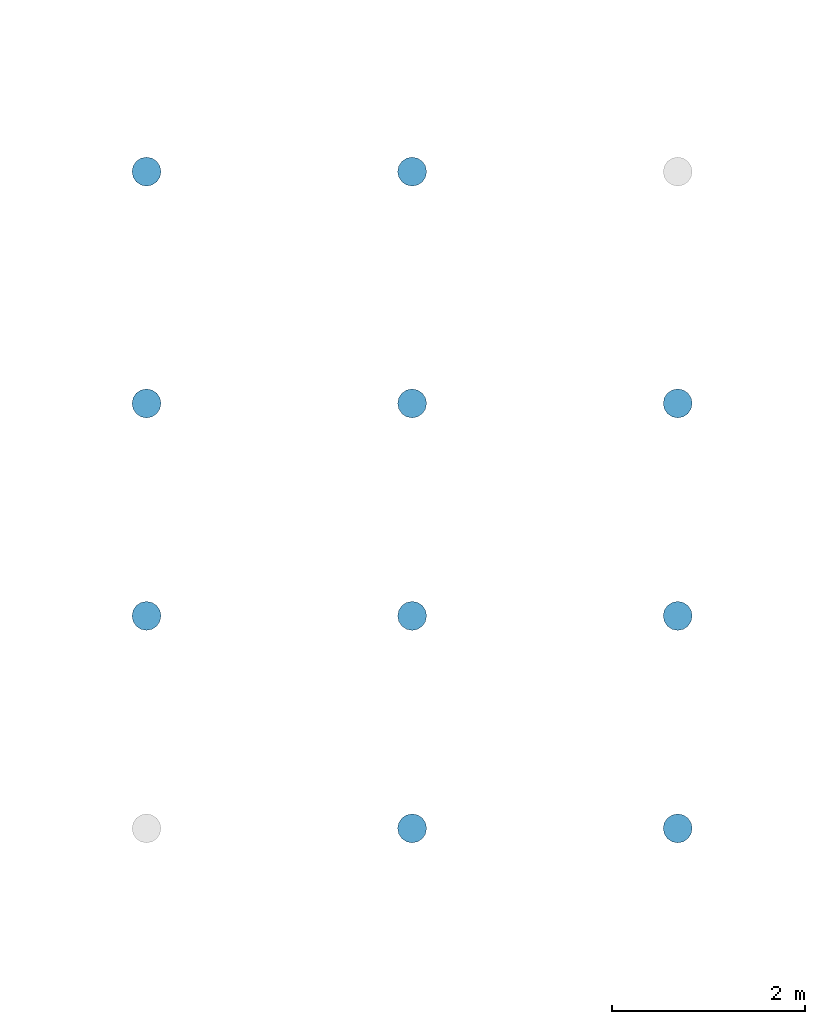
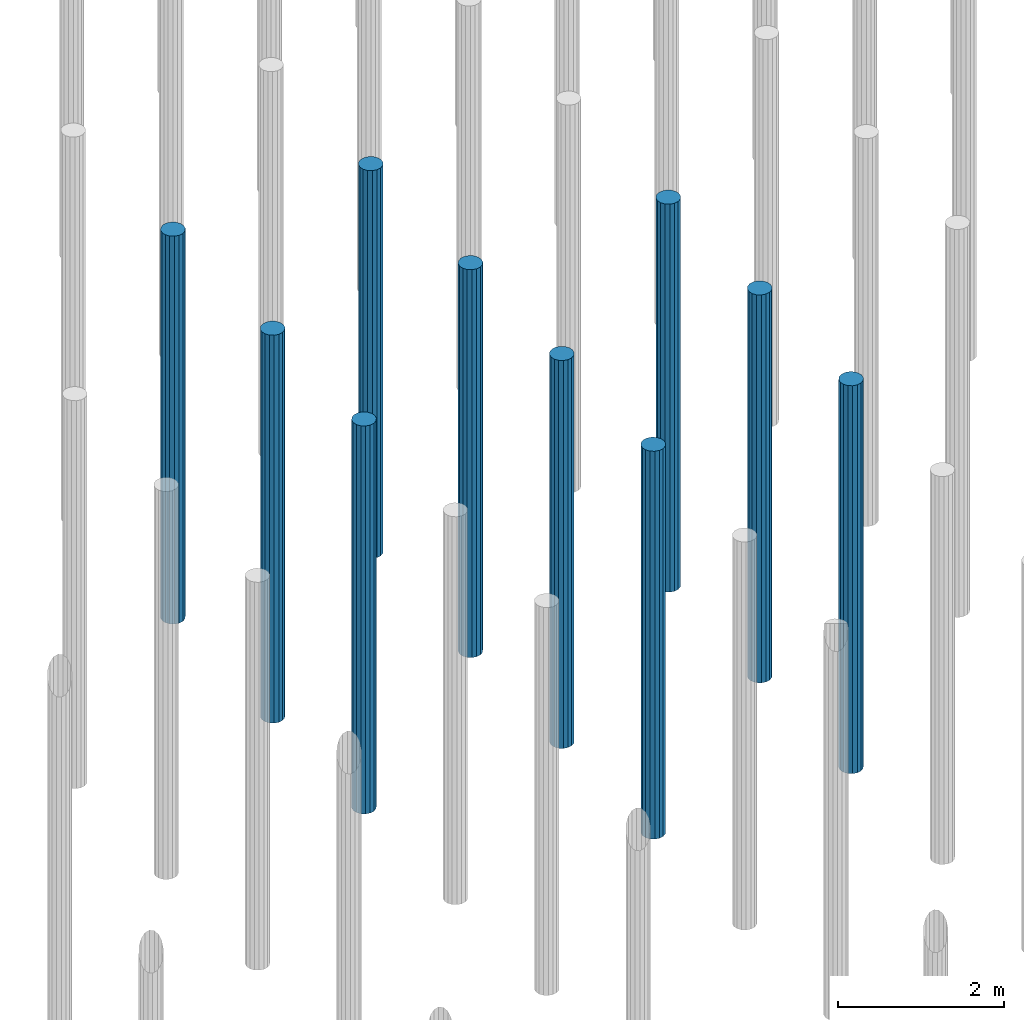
# One storey, part 81 of 102: 10 slabs.
"""IFC2X3 building model written with IfcOpenShell, lengths in millimetres."""

from ifc_helpers import new_model, entity, si_unit, converted_unit, derived_unit, money_unit, direction, frame, origin_with_axes, place, context, subcontext, project, spatial, faceted_brep, material, type_object, element, save


model = new_model("IFC2X3")

# Units and contexts
model_context = context("Model", 3, precision=0.01, world=origin_with_axes(), true_north=direction((0.0, 1.0)))
body_context = subcontext(model_context, "Body", "Model", "MODEL_VIEW")
ifc_project = project(units=[si_unit("LENGTHUNIT", "METRE", prefix="MILLI"), si_unit("AREAUNIT", "SQUARE_METRE"), si_unit("VOLUMEUNIT", "CUBIC_METRE"), converted_unit("PLANEANGLEUNIT", "DEGREE", entity("IfcPlaneAngleMeasure", 0.0174532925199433), si_unit("PLANEANGLEUNIT", "RADIAN"), dimensions=[0, 0, 0, 0, 0, 0, 0]), money_unit("EUR"), converted_unit("TIMEUNIT", "Year", entity("IfcTimeMeasure", 31557600.0), si_unit("TIMEUNIT", "SECOND"), dimensions=[0, 0, 1, 0, 0, 0, 0]), si_unit("MASSUNIT", "GRAM", prefix="KILO"), si_unit("THERMODYNAMICTEMPERATUREUNIT", "DEGREE_CELSIUS"), si_unit("LUMINOUSINTENSITYUNIT", "LUMEN"), si_unit("ENERGYUNIT", "JOULE", prefix="MEGA"), derived_unit("THERMALCONDUCTANCEUNIT", [(si_unit("POWERUNIT", "WATT"), 1), (si_unit("LENGTHUNIT", "METRE"), -1), (si_unit("THERMODYNAMICTEMPERATUREUNIT", "KELVIN"), -1)]), derived_unit("SPECIFICHEATCAPACITYUNIT", [(si_unit("ENERGYUNIT", "JOULE"), 1), (si_unit("MASSUNIT", "GRAM", prefix="KILO"), -1), (si_unit("THERMODYNAMICTEMPERATUREUNIT", "KELVIN"), -1)]), derived_unit("MASSDENSITYUNIT", [(si_unit("MASSUNIT", "GRAM", prefix="KILO"), 1), (si_unit("VOLUMEUNIT", "CUBIC_METRE"), -1)])], contexts=[model_context])

# Site, building, storey
site_placement = place(None, origin_with_axes())
site = spatial("IfcSite", under=ifc_project, at=site_placement, Name="Site", CompositionType="ELEMENT")
building_placement = place(site_placement, origin_with_axes())
building = spatial("IfcBuilding", under=site, at=building_placement, Name="Naam gebouw", CompositionType="ELEMENT")
storey_placement = place(building_placement, frame((0.0, 0.0, -1020.0), z_axis=(0.0, 0.0, 1.0), x_axis=(1.0, 0.0, 0.0)))
storey = spatial("IfcBuildingStorey", under=building, at=storey_placement, Name="-2 fundering", CompositionType="ELEMENT", Elevation=-1020.0)

# Slabs
ifc_material = material(Name="WSP_beton - ihwg beton")
slab_type_1 = type_object("IfcSlabType", Name="Slab 637", PredefinedType="NOTDEFINED")
slab_1_placement = place(storey_placement, frame((25299.99999999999, 30000.0, 979.9999952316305), z_axis=(0.0, 0.0, 1.0), x_axis=(1.0, 0.0, 0.0)))
element("IfcSlab", 1, at=slab_1_placement, inside=storey, type_object=slab_type_1, material=ifc_material, Name="17_WSP_FD_beton - fundatiepaal v21-2:ø300 (schroef)", PredefinedType="NOTDEFINED", context=body_context, shape_type="Brep", body=[
    faceted_brep([(75876.0, 57201.0, -5980.0), (75874.0, 57201.0, -5980.0), (75874.0, 57201.0, -5978.000000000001), (75876.0, 57201.0, -5978.000000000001), (75876.0, 57199.00000000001, -5980.0), (75874.0, 57199.00000000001, -5980.0), (75874.0, 57199.00000000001, -5978.000000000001), (75876.0, 57199.00000000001, -5978.000000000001)], [[[0, 1, 2, 3]], [[0, 4, 5, 1]], [[1, 5, 6, 2]], [[3, 2, 6, 7]], [[4, 0, 3, 7]], [[5, 4, 7, 6]]]),
    faceted_brep([(75725.0, 57200.0, -5980.0), (75736.41807012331, 57142.59748514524, -5980.0), (75736.41807012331, 57142.59748514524, -280.0000000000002), (75725.0, 57200.0, -280.0000000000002), (75736.41807012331, 57257.40251485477, -5980.0), (75768.93398282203, 57306.06601717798, -5980.0), (75817.59748514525, 57338.58192987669, -5980.0), (75875.0, 57350.0, -5980.0), (75932.40251485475, 57338.58192987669, -5980.0), (75981.06601717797, 57306.06601717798, -5980.0), (76013.58192987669, 57257.40251485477, -5980.0), (76025.0, 57200.0, -5980.0), (76013.58192987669, 57142.59748514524, -5980.0), (75981.06601717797, 57093.93398282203, -5980.0), (75932.40251485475, 57061.41807012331, -5980.0), (75875.0, 57050.00000000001, -5980.0), (75817.59748514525, 57061.41807012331, -5980.0), (75768.93398282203, 57093.93398282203, -5980.0), (75768.93398282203, 57093.93398282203, -280.0000000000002), (75817.59748514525, 57061.41807012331, -280.0000000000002), (75875.0, 57050.00000000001, -280.0000000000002), (75932.40251485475, 57061.41807012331, -280.0000000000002), (75981.06601717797, 57093.93398282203, -280.0000000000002), (76013.58192987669, 57142.59748514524, -280.0000000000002), (76025.0, 57200.0, -280.0000000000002), (76013.58192987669, 57257.40251485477, -280.0000000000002), (75981.06601717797, 57306.06601717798, -280.0000000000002), (75932.40251485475, 57338.58192987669, -280.0000000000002), (75875.0, 57350.0, -280.0000000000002), (75817.59748514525, 57338.58192987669, -280.0000000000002), (75768.93398282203, 57306.06601717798, -280.0000000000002), (75736.41807012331, 57257.40251485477, -280.0000000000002)], [[[0, 1, 2, 3]], [[0, 4, 5, 6, 7, 8, 9, 10, 11, 12, 13, 14, 15, 16, 17, 1]], [[1, 17, 18, 2]], [[3, 2, 18, 19, 20, 21, 22, 23, 24, 25, 26, 27, 28, 29, 30, 31]], [[4, 0, 3, 31]], [[5, 4, 31, 30]], [[6, 5, 30, 29]], [[7, 6, 29, 28]], [[8, 7, 28, 27]], [[9, 8, 27, 26]], [[10, 9, 26, 25]], [[11, 10, 25, 24]], [[12, 11, 24, 23]], [[13, 12, 23, 22]], [[14, 13, 22, 21]], [[15, 14, 21, 20]], [[16, 15, 20, 19]], [[17, 16, 19, 18]]]),
])
slab_type_2 = type_object("IfcSlabType", Name="Slab 638", PredefinedType="NOTDEFINED")
slab_2_placement = place(storey_placement, frame((25299.99999999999, 30000.0, 979.9999952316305), z_axis=(0.0, 0.0, 1.0), x_axis=(1.0, 0.0, 0.0)))
element("IfcSlab", 2, at=slab_2_placement, inside=storey, type_object=slab_type_2, material=ifc_material, Name="17_WSP_FD_beton - fundatiepaal v21-2:ø300 (schroef)", PredefinedType="NOTDEFINED", context=body_context, shape_type="Brep", body=[
    faceted_brep([(78626.0, 57201.0, -5980.0), (78624.0, 57201.0, -5980.0), (78624.0, 57201.0, -5978.000000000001), (78626.0, 57201.0, -5978.000000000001), (78626.0, 57199.00000000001, -5980.0), (78624.0, 57199.00000000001, -5980.0), (78624.0, 57199.00000000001, -5978.000000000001), (78626.0, 57199.00000000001, -5978.000000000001)], [[[0, 1, 2, 3]], [[0, 4, 5, 1]], [[1, 5, 6, 2]], [[3, 2, 6, 7]], [[4, 0, 3, 7]], [[5, 4, 7, 6]]]),
    faceted_brep([(78475.0, 57200.0, -5980.0), (78486.41807012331, 57142.59748514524, -5980.0), (78486.41807012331, 57142.59748514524, -280.0000000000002), (78475.0, 57200.0, -280.0000000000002), (78486.41807012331, 57257.40251485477, -5980.0), (78518.93398282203, 57306.06601717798, -5980.0), (78567.59748514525, 57338.58192987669, -5980.0), (78625.0, 57350.0, -5980.0), (78682.40251485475, 57338.58192987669, -5980.0), (78731.06601717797, 57306.06601717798, -5980.0), (78763.58192987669, 57257.40251485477, -5980.0), (78775.0, 57200.0, -5980.0), (78763.58192987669, 57142.59748514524, -5980.0), (78731.06601717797, 57093.93398282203, -5980.0), (78682.40251485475, 57061.41807012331, -5980.0), (78625.0, 57050.00000000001, -5980.0), (78567.59748514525, 57061.41807012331, -5980.0), (78518.93398282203, 57093.93398282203, -5980.0), (78518.93398282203, 57093.93398282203, -280.0000000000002), (78567.59748514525, 57061.41807012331, -280.0000000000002), (78625.0, 57050.00000000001, -280.0000000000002), (78682.40251485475, 57061.41807012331, -280.0000000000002), (78731.06601717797, 57093.93398282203, -280.0000000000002), (78763.58192987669, 57142.59748514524, -280.0000000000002), (78775.0, 57200.0, -280.0000000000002), (78763.58192987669, 57257.40251485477, -280.0000000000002), (78731.06601717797, 57306.06601717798, -280.0000000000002), (78682.40251485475, 57338.58192987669, -280.0000000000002), (78625.0, 57350.0, -280.0000000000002), (78567.59748514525, 57338.58192987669, -280.0000000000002), (78518.93398282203, 57306.06601717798, -280.0000000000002), (78486.41807012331, 57257.40251485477, -280.0000000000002)], [[[0, 1, 2, 3]], [[0, 4, 5, 6, 7, 8, 9, 10, 11, 12, 13, 14, 15, 16, 17, 1]], [[1, 17, 18, 2]], [[3, 2, 18, 19, 20, 21, 22, 23, 24, 25, 26, 27, 28, 29, 30, 31]], [[4, 0, 3, 31]], [[5, 4, 31, 30]], [[6, 5, 30, 29]], [[7, 6, 29, 28]], [[8, 7, 28, 27]], [[9, 8, 27, 26]], [[10, 9, 26, 25]], [[11, 10, 25, 24]], [[12, 11, 24, 23]], [[13, 12, 23, 22]], [[14, 13, 22, 21]], [[15, 14, 21, 20]], [[16, 15, 20, 19]], [[17, 16, 19, 18]]]),
])
slab_type_3 = type_object("IfcSlabType", Name="Slab 654", PredefinedType="NOTDEFINED")
slab_3_placement = place(storey_placement, frame((25299.99999999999, 30000.0, 979.9999952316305), z_axis=(0.0, 0.0, 1.0), x_axis=(1.0, 0.0, 0.0)))
element("IfcSlab", 3, at=slab_3_placement, inside=storey, type_object=slab_type_3, material=ifc_material, Name="17_WSP_FD_beton - fundatiepaal v21-2:ø300 (schroef)", PredefinedType="NOTDEFINED", context=body_context, shape_type="Brep", body=[
    faceted_brep([(73126.0, 59400.99999999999, -5980.0), (73124.0, 59400.99999999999, -5980.0), (73124.0, 59400.99999999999, -5978.000000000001), (73126.0, 59400.99999999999, -5978.000000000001), (73126.0, 59399.0, -5980.0), (73124.0, 59399.0, -5980.0), (73124.0, 59399.0, -5978.000000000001), (73126.0, 59399.0, -5978.000000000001)], [[[0, 1, 2, 3]], [[0, 4, 5, 1]], [[1, 5, 6, 2]], [[3, 2, 6, 7]], [[4, 0, 3, 7]], [[5, 4, 7, 6]]]),
    faceted_brep([(72975.0, 59400.0, -5980.0), (72986.41807012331, 59342.59748514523, -5980.0), (72986.41807012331, 59342.59748514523, -280.0000000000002), (72975.0, 59400.0, -280.0000000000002), (72986.41807012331, 59457.40251485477, -5980.0), (73018.93398282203, 59506.06601717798, -5980.0), (73067.59748514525, 59538.58192987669, -5980.0), (73125.0, 59550.0, -5980.0), (73182.40251485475, 59538.58192987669, -5980.0), (73231.06601717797, 59506.06601717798, -5980.0), (73263.58192987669, 59457.40251485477, -5980.0), (73275.0, 59400.0, -5980.0), (73263.58192987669, 59342.59748514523, -5980.0), (73231.06601717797, 59293.93398282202, -5980.0), (73182.40251485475, 59261.41807012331, -5980.0), (73125.0, 59250.0, -5980.0), (73067.59748514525, 59261.41807012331, -5980.0), (73018.93398282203, 59293.93398282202, -5980.0), (73018.93398282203, 59293.93398282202, -280.0000000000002), (73067.59748514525, 59261.41807012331, -280.0000000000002), (73125.0, 59250.0, -280.0000000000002), (73182.40251485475, 59261.41807012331, -280.0000000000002), (73231.06601717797, 59293.93398282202, -280.0000000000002), (73263.58192987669, 59342.59748514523, -280.0000000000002), (73275.0, 59400.0, -280.0000000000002), (73263.58192987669, 59457.40251485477, -280.0000000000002), (73231.06601717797, 59506.06601717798, -280.0000000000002), (73182.40251485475, 59538.58192987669, -280.0000000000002), (73125.0, 59550.0, -280.0000000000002), (73067.59748514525, 59538.58192987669, -280.0000000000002), (73018.93398282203, 59506.06601717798, -280.0000000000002), (72986.41807012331, 59457.40251485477, -280.0000000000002)], [[[0, 1, 2, 3]], [[0, 4, 5, 6, 7, 8, 9, 10, 11, 12, 13, 14, 15, 16, 17, 1]], [[1, 17, 18, 2]], [[3, 2, 18, 19, 20, 21, 22, 23, 24, 25, 26, 27, 28, 29, 30, 31]], [[4, 0, 3, 31]], [[5, 4, 31, 30]], [[6, 5, 30, 29]], [[7, 6, 29, 28]], [[8, 7, 28, 27]], [[9, 8, 27, 26]], [[10, 9, 26, 25]], [[11, 10, 25, 24]], [[12, 11, 24, 23]], [[13, 12, 23, 22]], [[14, 13, 22, 21]], [[15, 14, 21, 20]], [[16, 15, 20, 19]], [[17, 16, 19, 18]]]),
])
slab_type_4 = type_object("IfcSlabType", Name="Slab 655", PredefinedType="NOTDEFINED")
slab_4_placement = place(storey_placement, frame((25299.99999999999, 30000.0, 979.9999952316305), z_axis=(0.0, 0.0, 1.0), x_axis=(1.0, 0.0, 0.0)))
element("IfcSlab", 4, at=slab_4_placement, inside=storey, type_object=slab_type_4, material=ifc_material, Name="17_WSP_FD_beton - fundatiepaal v21-2:ø300 (schroef)", PredefinedType="NOTDEFINED", context=body_context, shape_type="Brep", body=[
    faceted_brep([(75876.0, 59400.99999999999, -5980.0), (75874.0, 59400.99999999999, -5980.0), (75874.0, 59400.99999999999, -5978.000000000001), (75876.0, 59400.99999999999, -5978.000000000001), (75876.0, 59399.0, -5980.0), (75874.0, 59399.0, -5980.0), (75874.0, 59399.0, -5978.000000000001), (75876.0, 59399.0, -5978.000000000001)], [[[0, 1, 2, 3]], [[0, 4, 5, 1]], [[1, 5, 6, 2]], [[3, 2, 6, 7]], [[4, 0, 3, 7]], [[5, 4, 7, 6]]]),
    faceted_brep([(75725.0, 59400.0, -5980.0), (75736.41807012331, 59342.59748514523, -5980.0), (75736.41807012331, 59342.59748514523, -280.0000000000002), (75725.0, 59400.0, -280.0000000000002), (75736.41807012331, 59457.40251485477, -5980.0), (75768.93398282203, 59506.06601717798, -5980.0), (75817.59748514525, 59538.58192987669, -5980.0), (75875.0, 59550.0, -5980.0), (75932.40251485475, 59538.58192987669, -5980.0), (75981.06601717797, 59506.06601717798, -5980.0), (76013.58192987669, 59457.40251485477, -5980.0), (76025.0, 59400.0, -5980.0), (76013.58192987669, 59342.59748514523, -5980.0), (75981.06601717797, 59293.93398282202, -5980.0), (75932.40251485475, 59261.41807012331, -5980.0), (75875.0, 59250.0, -5980.0), (75817.59748514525, 59261.41807012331, -5980.0), (75768.93398282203, 59293.93398282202, -5980.0), (75768.93398282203, 59293.93398282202, -280.0000000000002), (75817.59748514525, 59261.41807012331, -280.0000000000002), (75875.0, 59250.0, -280.0000000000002), (75932.40251485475, 59261.41807012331, -280.0000000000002), (75981.06601717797, 59293.93398282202, -280.0000000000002), (76013.58192987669, 59342.59748514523, -280.0000000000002), (76025.0, 59400.0, -280.0000000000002), (76013.58192987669, 59457.40251485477, -280.0000000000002), (75981.06601717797, 59506.06601717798, -280.0000000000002), (75932.40251485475, 59538.58192987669, -280.0000000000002), (75875.0, 59550.0, -280.0000000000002), (75817.59748514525, 59538.58192987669, -280.0000000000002), (75768.93398282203, 59506.06601717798, -280.0000000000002), (75736.41807012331, 59457.40251485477, -280.0000000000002)], [[[0, 1, 2, 3]], [[0, 4, 5, 6, 7, 8, 9, 10, 11, 12, 13, 14, 15, 16, 17, 1]], [[1, 17, 18, 2]], [[3, 2, 18, 19, 20, 21, 22, 23, 24, 25, 26, 27, 28, 29, 30, 31]], [[4, 0, 3, 31]], [[5, 4, 31, 30]], [[6, 5, 30, 29]], [[7, 6, 29, 28]], [[8, 7, 28, 27]], [[9, 8, 27, 26]], [[10, 9, 26, 25]], [[11, 10, 25, 24]], [[12, 11, 24, 23]], [[13, 12, 23, 22]], [[14, 13, 22, 21]], [[15, 14, 21, 20]], [[16, 15, 20, 19]], [[17, 16, 19, 18]]]),
])
slab_type_5 = type_object("IfcSlabType", Name="Slab 656", PredefinedType="NOTDEFINED")
slab_5_placement = place(storey_placement, frame((25299.99999999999, 30000.0, 979.9999952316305), z_axis=(0.0, 0.0, 1.0), x_axis=(1.0, 0.0, 0.0)))
element("IfcSlab", 5, at=slab_5_placement, inside=storey, type_object=slab_type_5, material=ifc_material, Name="17_WSP_FD_beton - fundatiepaal v21-2:ø300 (schroef)", PredefinedType="NOTDEFINED", context=body_context, shape_type="Brep", body=[
    faceted_brep([(78626.0, 59400.99999999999, -5980.0), (78624.0, 59400.99999999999, -5980.0), (78624.0, 59400.99999999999, -5978.000000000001), (78626.0, 59400.99999999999, -5978.000000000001), (78626.0, 59399.0, -5980.0), (78624.0, 59399.0, -5980.0), (78624.0, 59399.0, -5978.000000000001), (78626.0, 59399.0, -5978.000000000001)], [[[0, 1, 2, 3]], [[0, 4, 5, 1]], [[1, 5, 6, 2]], [[3, 2, 6, 7]], [[4, 0, 3, 7]], [[5, 4, 7, 6]]]),
    faceted_brep([(78475.0, 59400.0, -5980.0), (78486.41807012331, 59342.59748514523, -5980.0), (78486.41807012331, 59342.59748514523, -280.0000000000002), (78475.0, 59400.0, -280.0000000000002), (78486.41807012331, 59457.40251485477, -5980.0), (78518.93398282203, 59506.06601717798, -5980.0), (78567.59748514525, 59538.58192987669, -5980.0), (78625.0, 59550.0, -5980.0), (78682.40251485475, 59538.58192987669, -5980.0), (78731.06601717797, 59506.06601717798, -5980.0), (78763.58192987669, 59457.40251485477, -5980.0), (78775.0, 59400.0, -5980.0), (78763.58192987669, 59342.59748514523, -5980.0), (78731.06601717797, 59293.93398282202, -5980.0), (78682.40251485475, 59261.41807012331, -5980.0), (78625.0, 59250.0, -5980.0), (78567.59748514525, 59261.41807012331, -5980.0), (78518.93398282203, 59293.93398282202, -5980.0), (78518.93398282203, 59293.93398282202, -280.0000000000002), (78567.59748514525, 59261.41807012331, -280.0000000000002), (78625.0, 59250.0, -280.0000000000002), (78682.40251485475, 59261.41807012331, -280.0000000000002), (78731.06601717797, 59293.93398282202, -280.0000000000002), (78763.58192987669, 59342.59748514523, -280.0000000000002), (78775.0, 59400.0, -280.0000000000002), (78763.58192987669, 59457.40251485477, -280.0000000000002), (78731.06601717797, 59506.06601717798, -280.0000000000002), (78682.40251485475, 59538.58192987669, -280.0000000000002), (78625.0, 59550.0, -280.0000000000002), (78567.59748514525, 59538.58192987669, -280.0000000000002), (78518.93398282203, 59506.06601717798, -280.0000000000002), (78486.41807012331, 59457.40251485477, -280.0000000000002)], [[[0, 1, 2, 3]], [[0, 4, 5, 6, 7, 8, 9, 10, 11, 12, 13, 14, 15, 16, 17, 1]], [[1, 17, 18, 2]], [[3, 2, 18, 19, 20, 21, 22, 23, 24, 25, 26, 27, 28, 29, 30, 31]], [[4, 0, 3, 31]], [[5, 4, 31, 30]], [[6, 5, 30, 29]], [[7, 6, 29, 28]], [[8, 7, 28, 27]], [[9, 8, 27, 26]], [[10, 9, 26, 25]], [[11, 10, 25, 24]], [[12, 11, 24, 23]], [[13, 12, 23, 22]], [[14, 13, 22, 21]], [[15, 14, 21, 20]], [[16, 15, 20, 19]], [[17, 16, 19, 18]]]),
])
slab_type_6 = type_object("IfcSlabType", Name="Slab 674", PredefinedType="NOTDEFINED")
slab_6_placement = place(storey_placement, frame((25299.99999999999, 30000.0, 979.9999952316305), z_axis=(0.0, 0.0, 1.0), x_axis=(1.0, 0.0, 0.0)))
element("IfcSlab", 6, at=slab_6_placement, inside=storey, type_object=slab_type_6, material=ifc_material, Name="17_WSP_FD_beton - fundatiepaal v21-2:ø300 (schroef)", PredefinedType="NOTDEFINED", context=body_context, shape_type="Brep", body=[
    faceted_brep([(75876.0, 61601.0, -5980.0), (75874.0, 61601.0, -5980.0), (75874.0, 61601.0, -5978.000000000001), (75876.0, 61601.0, -5978.000000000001), (75876.0, 61599.00000000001, -5980.0), (75874.0, 61599.00000000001, -5980.0), (75874.0, 61599.00000000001, -5978.000000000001), (75876.0, 61599.00000000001, -5978.000000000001)], [[[0, 1, 2, 3]], [[0, 4, 5, 1]], [[1, 5, 6, 2]], [[3, 2, 6, 7]], [[4, 0, 3, 7]], [[5, 4, 7, 6]]]),
    faceted_brep([(75725.0, 61600.0, -5980.0), (75736.41807012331, 61542.59748514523, -5980.0), (75736.41807012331, 61542.59748514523, -280.0000000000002), (75725.0, 61600.0, -280.0000000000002), (75736.41807012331, 61657.40251485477, -5980.0), (75768.93398282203, 61706.06601717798, -5980.0), (75817.59748514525, 61738.58192987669, -5980.0), (75875.0, 61750.0, -5980.0), (75932.40251485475, 61738.58192987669, -5980.0), (75981.06601717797, 61706.06601717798, -5980.0), (76013.58192987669, 61657.40251485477, -5980.0), (76025.0, 61600.0, -5980.0), (76013.58192987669, 61542.59748514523, -5980.0), (75981.06601717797, 61493.93398282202, -5980.0), (75932.40251485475, 61461.41807012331, -5980.0), (75875.0, 61450.0, -5980.0), (75817.59748514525, 61461.41807012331, -5980.0), (75768.93398282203, 61493.93398282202, -5980.0), (75768.93398282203, 61493.93398282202, -280.0000000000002), (75817.59748514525, 61461.41807012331, -280.0000000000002), (75875.0, 61450.0, -280.0000000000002), (75932.40251485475, 61461.41807012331, -280.0000000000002), (75981.06601717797, 61493.93398282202, -280.0000000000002), (76013.58192987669, 61542.59748514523, -280.0000000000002), (76025.0, 61600.0, -280.0000000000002), (76013.58192987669, 61657.40251485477, -280.0000000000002), (75981.06601717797, 61706.06601717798, -280.0000000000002), (75932.40251485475, 61738.58192987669, -280.0000000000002), (75875.0, 61750.0, -280.0000000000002), (75817.59748514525, 61738.58192987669, -280.0000000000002), (75768.93398282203, 61706.06601717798, -280.0000000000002), (75736.41807012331, 61657.40251485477, -280.0000000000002)], [[[0, 1, 2, 3]], [[0, 4, 5, 6, 7, 8, 9, 10, 11, 12, 13, 14, 15, 16, 17, 1]], [[1, 17, 18, 2]], [[3, 2, 18, 19, 20, 21, 22, 23, 24, 25, 26, 27, 28, 29, 30, 31]], [[4, 0, 3, 31]], [[5, 4, 31, 30]], [[6, 5, 30, 29]], [[7, 6, 29, 28]], [[8, 7, 28, 27]], [[9, 8, 27, 26]], [[10, 9, 26, 25]], [[11, 10, 25, 24]], [[12, 11, 24, 23]], [[13, 12, 23, 22]], [[14, 13, 22, 21]], [[15, 14, 21, 20]], [[16, 15, 20, 19]], [[17, 16, 19, 18]]]),
])
slab_type_7 = type_object("IfcSlabType", Name="Slab 673", PredefinedType="NOTDEFINED")
slab_7_placement = place(storey_placement, frame((25299.99999999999, 30000.0, 979.9999952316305), z_axis=(0.0, 0.0, 1.0), x_axis=(1.0, 0.0, 0.0)))
element("IfcSlab", 7, at=slab_7_placement, inside=storey, type_object=slab_type_7, material=ifc_material, Name="17_WSP_FD_beton - fundatiepaal v21-2:ø300 (schroef)", PredefinedType="NOTDEFINED", context=body_context, shape_type="Brep", body=[
    faceted_brep([(73126.0, 61601.0, -5980.0), (73124.0, 61601.0, -5980.0), (73124.0, 61601.0, -5978.000000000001), (73126.0, 61601.0, -5978.000000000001), (73126.0, 61599.00000000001, -5980.0), (73124.0, 61599.00000000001, -5980.0), (73124.0, 61599.00000000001, -5978.000000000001), (73126.0, 61599.00000000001, -5978.000000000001)], [[[0, 1, 2, 3]], [[0, 4, 5, 1]], [[1, 5, 6, 2]], [[3, 2, 6, 7]], [[4, 0, 3, 7]], [[5, 4, 7, 6]]]),
    faceted_brep([(72975.0, 61600.0, -5980.0), (72986.41807012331, 61542.59748514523, -5980.0), (72986.41807012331, 61542.59748514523, -280.0000000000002), (72975.0, 61600.0, -280.0000000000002), (72986.41807012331, 61657.40251485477, -5980.0), (73018.93398282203, 61706.06601717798, -5980.0), (73067.59748514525, 61738.58192987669, -5980.0), (73125.0, 61750.0, -5980.0), (73182.40251485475, 61738.58192987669, -5980.0), (73231.06601717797, 61706.06601717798, -5980.0), (73263.58192987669, 61657.40251485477, -5980.0), (73275.0, 61600.0, -5980.0), (73263.58192987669, 61542.59748514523, -5980.0), (73231.06601717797, 61493.93398282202, -5980.0), (73182.40251485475, 61461.41807012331, -5980.0), (73125.0, 61450.0, -5980.0), (73067.59748514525, 61461.41807012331, -5980.0), (73018.93398282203, 61493.93398282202, -5980.0), (73018.93398282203, 61493.93398282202, -280.0000000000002), (73067.59748514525, 61461.41807012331, -280.0000000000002), (73125.0, 61450.0, -280.0000000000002), (73182.40251485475, 61461.41807012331, -280.0000000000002), (73231.06601717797, 61493.93398282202, -280.0000000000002), (73263.58192987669, 61542.59748514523, -280.0000000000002), (73275.0, 61600.0, -280.0000000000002), (73263.58192987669, 61657.40251485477, -280.0000000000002), (73231.06601717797, 61706.06601717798, -280.0000000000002), (73182.40251485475, 61738.58192987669, -280.0000000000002), (73125.0, 61750.0, -280.0000000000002), (73067.59748514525, 61738.58192987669, -280.0000000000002), (73018.93398282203, 61706.06601717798, -280.0000000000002), (72986.41807012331, 61657.40251485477, -280.0000000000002)], [[[0, 1, 2, 3]], [[0, 4, 5, 6, 7, 8, 9, 10, 11, 12, 13, 14, 15, 16, 17, 1]], [[1, 17, 18, 2]], [[3, 2, 18, 19, 20, 21, 22, 23, 24, 25, 26, 27, 28, 29, 30, 31]], [[4, 0, 3, 31]], [[5, 4, 31, 30]], [[6, 5, 30, 29]], [[7, 6, 29, 28]], [[8, 7, 28, 27]], [[9, 8, 27, 26]], [[10, 9, 26, 25]], [[11, 10, 25, 24]], [[12, 11, 24, 23]], [[13, 12, 23, 22]], [[14, 13, 22, 21]], [[15, 14, 21, 20]], [[16, 15, 20, 19]], [[17, 16, 19, 18]]]),
])
slab_type_8 = type_object("IfcSlabType", Name="Slab 675", PredefinedType="NOTDEFINED")
slab_8_placement = place(storey_placement, frame((25299.99999999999, 30000.0, 979.9999952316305), z_axis=(0.0, 0.0, 1.0), x_axis=(1.0, 0.0, 0.0)))
element("IfcSlab", 8, at=slab_8_placement, inside=storey, type_object=slab_type_8, material=ifc_material, Name="17_WSP_FD_beton - fundatiepaal v21-2:ø300 (schroef)", PredefinedType="NOTDEFINED", context=body_context, shape_type="Brep", body=[
    faceted_brep([(78626.0, 61601.0, -5980.0), (78624.0, 61601.0, -5980.0), (78624.0, 61601.0, -5978.000000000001), (78626.0, 61601.0, -5978.000000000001), (78626.0, 61599.00000000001, -5980.0), (78624.0, 61599.00000000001, -5980.0), (78624.0, 61599.00000000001, -5978.000000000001), (78626.0, 61599.00000000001, -5978.000000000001)], [[[0, 1, 2, 3]], [[0, 4, 5, 1]], [[1, 5, 6, 2]], [[3, 2, 6, 7]], [[4, 0, 3, 7]], [[5, 4, 7, 6]]]),
    faceted_brep([(78475.0, 61600.0, -5980.0), (78486.41807012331, 61542.59748514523, -5980.0), (78486.41807012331, 61542.59748514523, -280.0000000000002), (78475.0, 61600.0, -280.0000000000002), (78486.41807012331, 61657.40251485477, -5980.0), (78518.93398282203, 61706.06601717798, -5980.0), (78567.59748514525, 61738.58192987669, -5980.0), (78625.0, 61750.0, -5980.0), (78682.40251485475, 61738.58192987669, -5980.0), (78731.06601717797, 61706.06601717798, -5980.0), (78763.58192987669, 61657.40251485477, -5980.0), (78775.0, 61600.0, -5980.0), (78763.58192987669, 61542.59748514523, -5980.0), (78731.06601717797, 61493.93398282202, -5980.0), (78682.40251485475, 61461.41807012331, -5980.0), (78625.0, 61450.0, -5980.0), (78567.59748514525, 61461.41807012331, -5980.0), (78518.93398282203, 61493.93398282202, -5980.0), (78518.93398282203, 61493.93398282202, -280.0000000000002), (78567.59748514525, 61461.41807012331, -280.0000000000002), (78625.0, 61450.0, -280.0000000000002), (78682.40251485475, 61461.41807012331, -280.0000000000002), (78731.06601717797, 61493.93398282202, -280.0000000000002), (78763.58192987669, 61542.59748514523, -280.0000000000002), (78775.0, 61600.0, -280.0000000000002), (78763.58192987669, 61657.40251485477, -280.0000000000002), (78731.06601717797, 61706.06601717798, -280.0000000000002), (78682.40251485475, 61738.58192987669, -280.0000000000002), (78625.0, 61750.0, -280.0000000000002), (78567.59748514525, 61738.58192987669, -280.0000000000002), (78518.93398282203, 61706.06601717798, -280.0000000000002), (78486.41807012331, 61657.40251485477, -280.0000000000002)], [[[0, 1, 2, 3]], [[0, 4, 5, 6, 7, 8, 9, 10, 11, 12, 13, 14, 15, 16, 17, 1]], [[1, 17, 18, 2]], [[3, 2, 18, 19, 20, 21, 22, 23, 24, 25, 26, 27, 28, 29, 30, 31]], [[4, 0, 3, 31]], [[5, 4, 31, 30]], [[6, 5, 30, 29]], [[7, 6, 29, 28]], [[8, 7, 28, 27]], [[9, 8, 27, 26]], [[10, 9, 26, 25]], [[11, 10, 25, 24]], [[12, 11, 24, 23]], [[13, 12, 23, 22]], [[14, 13, 22, 21]], [[15, 14, 21, 20]], [[16, 15, 20, 19]], [[17, 16, 19, 18]]]),
])
slab_type_9 = type_object("IfcSlabType", Name="Slab 691", PredefinedType="NOTDEFINED")
slab_9_placement = place(storey_placement, frame((25299.99999999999, 30000.0, 979.9999952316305), z_axis=(0.0, 0.0, 1.0), x_axis=(1.0, 0.0, 0.0)))
element("IfcSlab", 9, at=slab_9_placement, inside=storey, type_object=slab_type_9, material=ifc_material, Name="17_WSP_FD_beton - fundatiepaal v21-2:ø300 (schroef)", PredefinedType="NOTDEFINED", context=body_context, shape_type="Brep", body=[
    faceted_brep([(73126.0, 64001.00000000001, -5980.0), (73124.0, 64001.00000000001, -5980.0), (73124.0, 64001.00000000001, -5978.000000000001), (73126.0, 64001.00000000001, -5978.000000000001), (73126.0, 63999.0, -5980.0), (73124.0, 63999.0, -5980.0), (73124.0, 63999.0, -5978.000000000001), (73126.0, 63999.0, -5978.000000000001)], [[[0, 1, 2, 3]], [[0, 4, 5, 1]], [[1, 5, 6, 2]], [[3, 2, 6, 7]], [[4, 0, 3, 7]], [[5, 4, 7, 6]]]),
    faceted_brep([(72975.0, 64000.0, -5980.0), (72986.41807012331, 63942.59748514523, -5980.0), (72986.41807012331, 63942.59748514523, -280.0000000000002), (72975.0, 64000.0, -280.0000000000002), (72986.41807012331, 64057.40251485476, -5980.0), (73018.93398282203, 64106.06601717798, -5980.0), (73067.59748514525, 64138.58192987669, -5980.0), (73125.0, 64150.00000000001, -5980.0), (73182.40251485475, 64138.58192987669, -5980.0), (73231.06601717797, 64106.06601717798, -5980.0), (73263.58192987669, 64057.40251485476, -5980.0), (73275.0, 64000.0, -5980.0), (73263.58192987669, 63942.59748514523, -5980.0), (73231.06601717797, 63893.93398282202, -5980.0), (73182.40251485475, 63861.41807012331, -5980.0), (73125.0, 63850.0, -5980.0), (73067.59748514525, 63861.41807012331, -5980.0), (73018.93398282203, 63893.93398282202, -5980.0), (73018.93398282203, 63893.93398282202, -280.0000000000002), (73067.59748514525, 63861.41807012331, -280.0000000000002), (73125.0, 63850.0, -280.0000000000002), (73182.40251485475, 63861.41807012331, -280.0000000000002), (73231.06601717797, 63893.93398282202, -280.0000000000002), (73263.58192987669, 63942.59748514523, -280.0000000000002), (73275.0, 64000.0, -280.0000000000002), (73263.58192987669, 64057.40251485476, -280.0000000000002), (73231.06601717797, 64106.06601717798, -280.0000000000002), (73182.40251485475, 64138.58192987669, -280.0000000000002), (73125.0, 64150.00000000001, -280.0000000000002), (73067.59748514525, 64138.58192987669, -280.0000000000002), (73018.93398282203, 64106.06601717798, -280.0000000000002), (72986.41807012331, 64057.40251485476, -280.0000000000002)], [[[0, 1, 2, 3]], [[0, 4, 5, 6, 7, 8, 9, 10, 11, 12, 13, 14, 15, 16, 17, 1]], [[1, 17, 18, 2]], [[3, 2, 18, 19, 20, 21, 22, 23, 24, 25, 26, 27, 28, 29, 30, 31]], [[4, 0, 3, 31]], [[5, 4, 31, 30]], [[6, 5, 30, 29]], [[7, 6, 29, 28]], [[8, 7, 28, 27]], [[9, 8, 27, 26]], [[10, 9, 26, 25]], [[11, 10, 25, 24]], [[12, 11, 24, 23]], [[13, 12, 23, 22]], [[14, 13, 22, 21]], [[15, 14, 21, 20]], [[16, 15, 20, 19]], [[17, 16, 19, 18]]]),
])
slab_type_10 = type_object("IfcSlabType", Name="Slab 692", PredefinedType="NOTDEFINED")
slab_10_placement = place(storey_placement, frame((25299.99999999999, 30000.0, 979.9999952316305), z_axis=(0.0, 0.0, 1.0), x_axis=(1.0, 0.0, 0.0)))
element("IfcSlab", 10, at=slab_10_placement, inside=storey, type_object=slab_type_10, material=ifc_material, Name="17_WSP_FD_beton - fundatiepaal v21-2:ø300 (schroef)", PredefinedType="NOTDEFINED", context=body_context, shape_type="Brep", body=[
    faceted_brep([(75876.0, 64001.00000000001, -5980.0), (75874.0, 64001.00000000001, -5980.0), (75874.0, 64001.00000000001, -5978.000000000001), (75876.0, 64001.00000000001, -5978.000000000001), (75876.0, 63999.0, -5980.0), (75874.0, 63999.0, -5980.0), (75874.0, 63999.0, -5978.000000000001), (75876.0, 63999.0, -5978.000000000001)], [[[0, 1, 2, 3]], [[0, 4, 5, 1]], [[1, 5, 6, 2]], [[3, 2, 6, 7]], [[4, 0, 3, 7]], [[5, 4, 7, 6]]]),
    faceted_brep([(75725.0, 64000.0, -5980.0), (75736.41807012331, 63942.59748514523, -5980.0), (75736.41807012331, 63942.59748514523, -280.0000000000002), (75725.0, 64000.0, -280.0000000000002), (75736.41807012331, 64057.40251485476, -5980.0), (75768.93398282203, 64106.06601717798, -5980.0), (75817.59748514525, 64138.58192987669, -5980.0), (75875.0, 64150.00000000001, -5980.0), (75932.40251485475, 64138.58192987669, -5980.0), (75981.06601717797, 64106.06601717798, -5980.0), (76013.58192987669, 64057.40251485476, -5980.0), (76025.0, 64000.0, -5980.0), (76013.58192987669, 63942.59748514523, -5980.0), (75981.06601717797, 63893.93398282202, -5980.0), (75932.40251485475, 63861.41807012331, -5980.0), (75875.0, 63850.0, -5980.0), (75817.59748514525, 63861.41807012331, -5980.0), (75768.93398282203, 63893.93398282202, -5980.0), (75768.93398282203, 63893.93398282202, -280.0000000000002), (75817.59748514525, 63861.41807012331, -280.0000000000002), (75875.0, 63850.0, -280.0000000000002), (75932.40251485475, 63861.41807012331, -280.0000000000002), (75981.06601717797, 63893.93398282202, -280.0000000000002), (76013.58192987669, 63942.59748514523, -280.0000000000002), (76025.0, 64000.0, -280.0000000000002), (76013.58192987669, 64057.40251485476, -280.0000000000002), (75981.06601717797, 64106.06601717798, -280.0000000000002), (75932.40251485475, 64138.58192987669, -280.0000000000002), (75875.0, 64150.00000000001, -280.0000000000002), (75817.59748514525, 64138.58192987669, -280.0000000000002), (75768.93398282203, 64106.06601717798, -280.0000000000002), (75736.41807012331, 64057.40251485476, -280.0000000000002)], [[[0, 1, 2, 3]], [[0, 4, 5, 6, 7, 8, 9, 10, 11, 12, 13, 14, 15, 16, 17, 1]], [[1, 17, 18, 2]], [[3, 2, 18, 19, 20, 21, 22, 23, 24, 25, 26, 27, 28, 29, 30, 31]], [[4, 0, 3, 31]], [[5, 4, 31, 30]], [[6, 5, 30, 29]], [[7, 6, 29, 28]], [[8, 7, 28, 27]], [[9, 8, 27, 26]], [[10, 9, 26, 25]], [[11, 10, 25, 24]], [[12, 11, 24, 23]], [[13, 12, 23, 22]], [[14, 13, 22, 21]], [[15, 14, 21, 20]], [[16, 15, 20, 19]], [[17, 16, 19, 18]]]),
])

save(model, "model.ifc")
